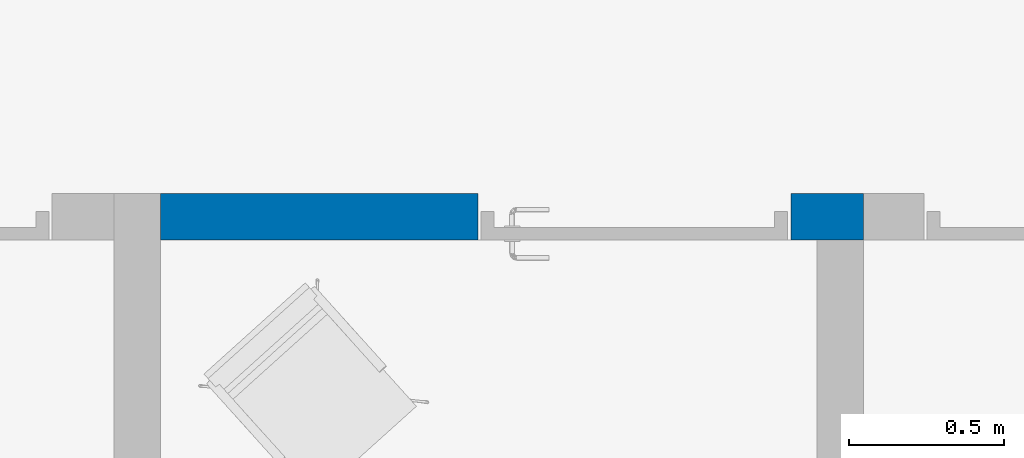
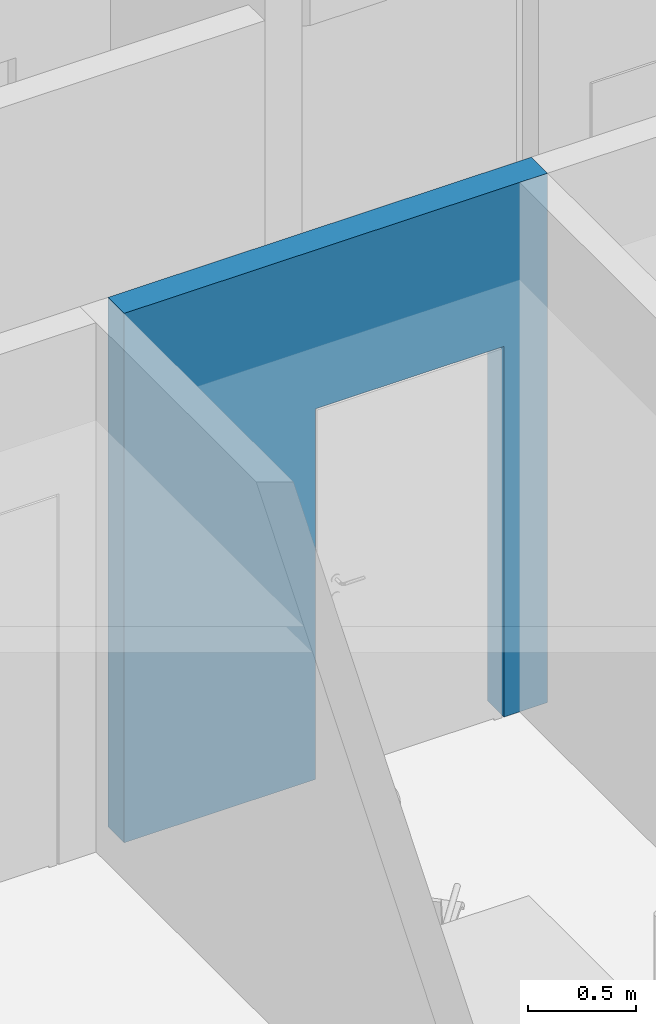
# One storey, part 10 of 58: 1 wall, 1 opening.
"""IFC2X3 building model written with IfcOpenShell, lengths in millimetres."""

from ifc_helpers import new_model, entity, si_unit, converted_unit, derived_unit, direction, frame, frame_2d, origin, place, context, subcontext, project, spatial, rectangle, extrude, material, layer, layer_set, layer_usage, type_object, element, save


model = new_model("IFC2X3")

# Units and contexts
model_context = context("Model", 3, precision=0.01, world=origin(), true_north=direction((0.7716245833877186, 0.6360782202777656)))
body_context = subcontext(model_context, "Body", "Model", "MODEL_VIEW")
ifc_project = project(units=[si_unit("LENGTHUNIT", "METRE", prefix="MILLI"), si_unit("AREAUNIT", "SQUARE_METRE"), converted_unit("PLANEANGLEUNIT", "DEGREE", entity("IfcPlaneAngleMeasure", 0.017453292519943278), si_unit("PLANEANGLEUNIT", "RADIAN"), dimensions=[0, 0, 0, 0, 0, 0, 0]), derived_unit("THERMALTRANSMITTANCEUNIT", [(si_unit("MASSUNIT", "GRAM", prefix="KILO"), 1), (si_unit("THERMODYNAMICTEMPERATUREUNIT", "KELVIN"), -1), (si_unit("TIMEUNIT", "SECOND"), -3)])], contexts=[model_context])

# Site, building, storey
site_placement = place(None, origin())
site = spatial("IfcSite", under=ifc_project, at=site_placement, Name="Default", CompositionType="ELEMENT")
building_placement = place(site_placement, origin())
building = spatial("IfcBuilding", under=site, at=building_placement, CompositionType="ELEMENT")
storey_placement = place(building_placement, frame((0.0, 0.0, 31140.0)))
storey = spatial("IfcBuildingStorey", under=building, at=storey_placement, Name="PLAN U1", CompositionType="ELEMENT", Elevation=31140.000000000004)

# Wall, opening
ifc_material = material(Name="Eksist. vegg")
ifc_layer = layer(ifc_material, 150.0)
ifc_layer_set = layer_set([ifc_layer], Name="Basic Wall:240 Eksist. Innervegg 150 mm")
ifc_layer_usage = layer_usage(ifc_layer_set, "AXIS2", "NEGATIVE", 75.0)
wall_type = type_object("IfcWallType", Name="Basic Wall:240 Eksist. Innervegg 150 mm", PredefinedType="STANDARD", material=ifc_layer_set)
wall_placement = place(storey_placement, frame((266067.924446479, 57590.255550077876, 0.0)))
wall = element("IfcWallStandardCase", 1, at=wall_placement, inside=storey, type_object=wall_type, material=ifc_layer_usage, Name="Basic Wall:240 Eksist. Innervegg 150 mm", ObjectType="Basic Wall:240 Eksist. Innervegg 150 mm", context=body_context, shape_type="SweptSolid", body=[
    extrude(rectangle(XDim=2269.632040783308, YDim=150.00000000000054, at=frame_2d((1134.8160203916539, -1.0516032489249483e-12), x_axis=(1.0, 0.0))), origin(), (0.0, 0.0, 1.0), 2999.9999999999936),
])
opening_placement = place(wall_placement, frame((2035.0, 75.0, 0.0)))
element("IfcOpeningElement", 2, at=opening_placement, cuts=wall, Name="Enfløyet:2441 Innvendig 10x21M:1", ObjectType="Opening", context=body_context, shape_type="SweptSolid", body=[
    extrude(rectangle(XDim=2100.0, YDim=1009.9999999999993, at=frame_2d((1049.9999999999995, 505.0000000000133), x_axis=(1.0, 0.0))), frame((0.0, 0.0, 0.0), z_axis=(0.0, -1.0, 0.0), x_axis=(0.0, 0.0, 1.0)), (0.0, 0.0, 1.0), 150.0),
])

save(model, "model.ifc")
